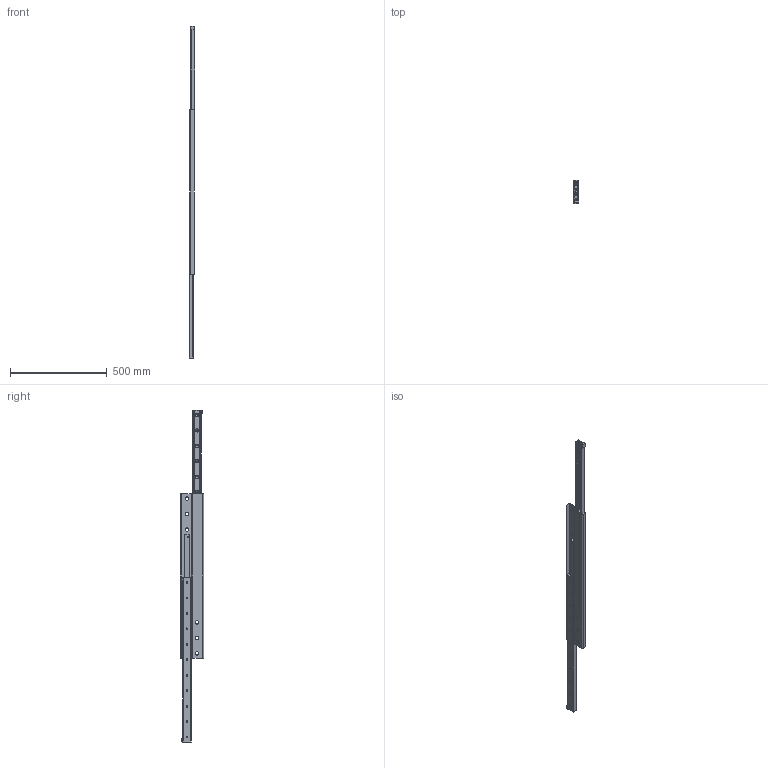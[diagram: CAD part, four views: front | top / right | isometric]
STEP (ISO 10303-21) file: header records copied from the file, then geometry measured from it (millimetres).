
FILE_DESCRIPTION(('STEP AP214'),'1');
FILE_NAME('rail_dss43-850_01.stp','2017-04-17T03:59:47',('TraceParts'),('TraceParts S.A.'),'Spatial InterOp 3D',' ',' ');
FILE_SCHEMA(('automotive_design'));
Length unit declared in the file: millimetre
Products named in the file (3): rail_dss43-850_01_1; rail_dss43-850_01_2; rail_dss43-850_01_3
Bounding box: 28 x 120 x 1716 mm (x, y, z)
Volume: 1515476.7 mm3; surface area: 610098.8 mm2
Topology: 3 solids, 3 shells, 290 faces, 778 edges, 504 vertices
Faces by surface type: plane 138, cylinder 108, cone 44
Entity records: 9243 total; most frequent: DIRECTION 1640, CARTESIAN_POINT 1575, ORIENTED_EDGE 1556, EDGE_CURVE 778, AXIS2_PLACEMENT_3D 569, VERTEX_POINT 504, LINE 502, VECTOR 502
